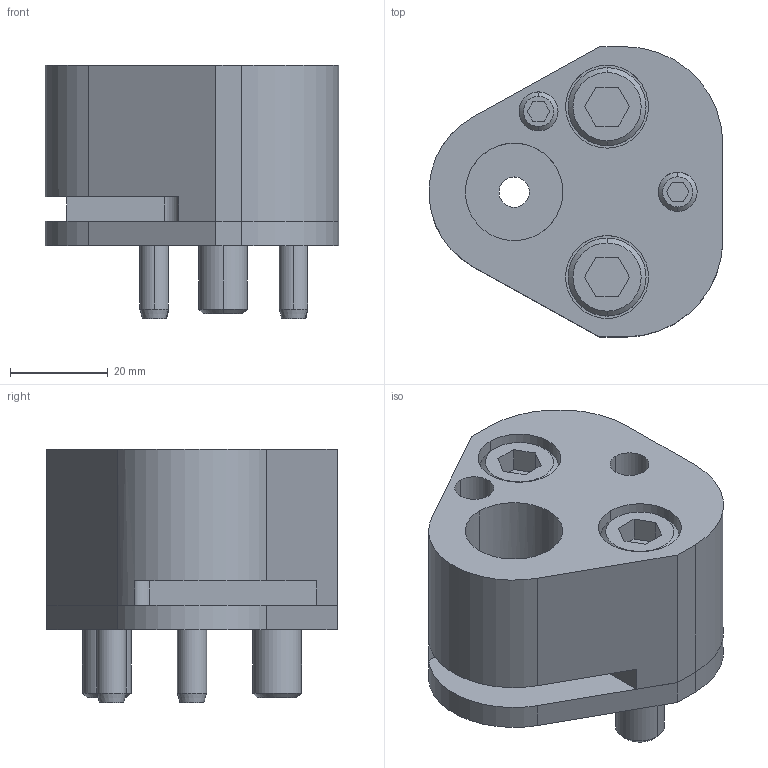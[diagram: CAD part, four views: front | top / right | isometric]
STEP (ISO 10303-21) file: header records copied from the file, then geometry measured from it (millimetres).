
FILE_DESCRIPTION(/* description */ (''),/* implementation_level */ '2;1');
FILE_NAME(/* name */ '3d_crn-fp20_03653_r00.stp',/* time_stamp */ '2011-01-10T14:16:21+09:00',/* author */ ('MISUMI'),/* organization */ (''),/* preprocessor_version */ 'ST-DEVELOPER v11',/* originating_system */ 'UGS - NX 5.0',/* authorisation */ '');
FILE_SCHEMA (('CONFIG_CONTROL_DESIGN'));
Length unit declared in the file: millimetre
Products named in the file (1): 3d_crn-fp20_03653_r00
Bounding box: 60.24 x 59.5 x 52 mm (x, y, z)
Volume: 86022.2 mm3; surface area: 29083.1 mm2
Topology: 8 solids, 8 shells, 156 faces, 358 edges, 231 vertices
Faces by surface type: plane 69, cylinder 61, cone 26
Entity records: 4583 total; most frequent: DIRECTION 815, CARTESIAN_POINT 803, ORIENTED_EDGE 716, EDGE_CURVE 358, AXIS2_PLACEMENT_3D 307, VERTEX_POINT 231, LINE 201, VECTOR 201
